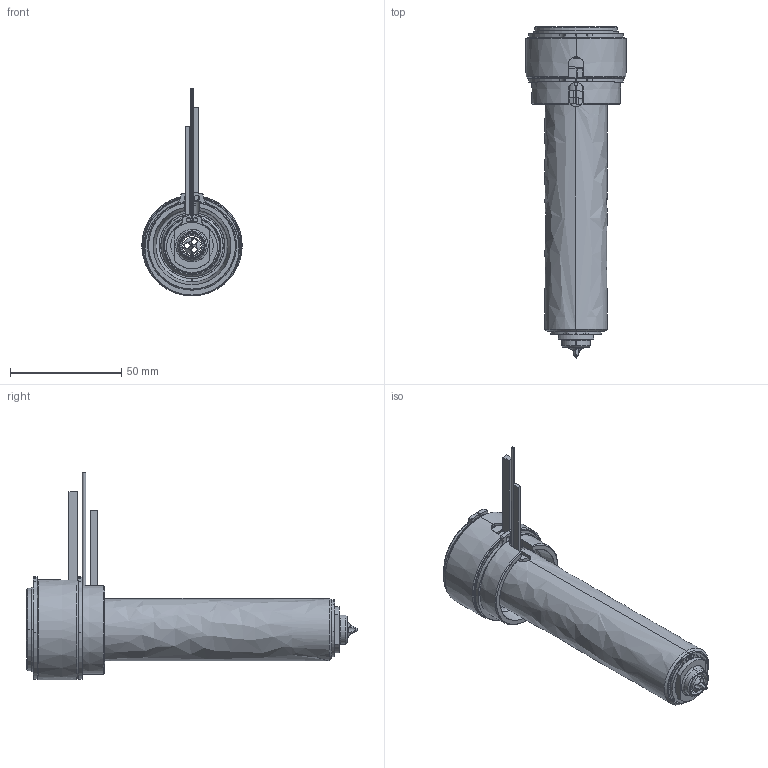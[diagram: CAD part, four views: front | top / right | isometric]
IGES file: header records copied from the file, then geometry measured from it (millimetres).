
Start section: SolidWorks IGES file using analytic representation for surfaces
Global section: file name: C:\Documents and Settings\ws-20\Desktop\TEM\UGEP4503-M-A-0 [Øf-0.88 ØC-09].IGS; native system: SolidWorks 2012; preprocessor: SolidWorks 2012; author: ws-20; date: 120424.085541; units: millimetre
Bounding box: 45 x 149.05 x 93.15 mm (x, y, z)
Surface area: 54431 mm2 (no closed solid volume)
Topology: 0 solids, 0 shells, 178 faces, 3298 edges, 3298 vertices
Faces by surface type: revolution 113, bspline 65
